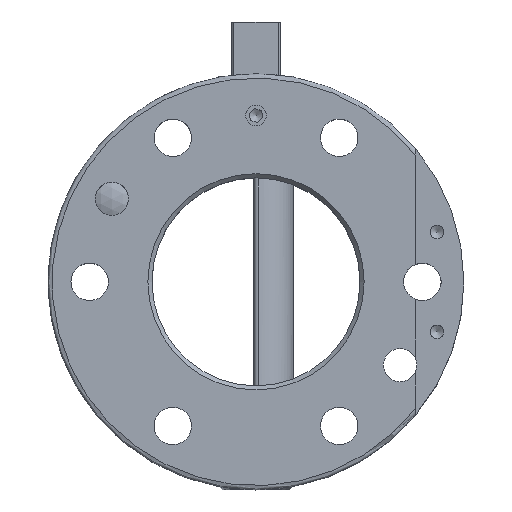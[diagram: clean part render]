
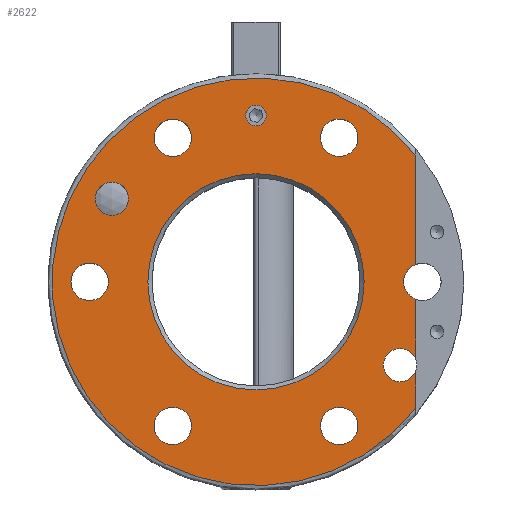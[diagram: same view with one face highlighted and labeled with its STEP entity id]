
A CAD part, top view. The second image highlights one B-rep face of the part: STEP entity #2622.
In plain terms, the highlighted planar face has unit normal (0, 0, 1).
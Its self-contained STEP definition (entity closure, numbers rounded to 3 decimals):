
#482=CARTESIAN_POINT('',(2.459,40.0,0.0));
#483=VERTEX_POINT('',#482);
#484=CARTESIAN_POINT('',(0.0,40.0,0.0));
#485=DIRECTION('',(0.0,0.0,-1.0));
#486=DIRECTION('',(1.0,0.0,0.0));
#487=AXIS2_PLACEMENT_3D('',#484,#485,#486);
#488=CIRCLE('',#487,2.459);
#489=EDGE_CURVE('',#483,#483,#488,.T.);
#2428=CARTESIAN_POINT('',(38.4,30.437,0.0));
#2429=VERTEX_POINT('',#2428);
#2444=CARTESIAN_POINT('',(38.4,-30.437,0.0));
#2445=VERTEX_POINT('',#2444);
#2459=CARTESIAN_POINT('',(0.0,0.0,0.0));
#2460=DIRECTION('',(0.0,0.0,-1.0));
#2461=DIRECTION('',(-1.0,0.0,0.0));
#2462=AXIS2_PLACEMENT_3D('',#2459,#2460,#2461);
#2463=CIRCLE('',#2462,49.0);
#2464=EDGE_CURVE('',#2445,#2429,#2463,.T.);
#2475=CARTESIAN_POINT('',(38.4,4.206,0.0));
#2476=VERTEX_POINT('',#2475);
#2477=CARTESIAN_POINT('',(38.4,4.206,0.0));
#2478=DIRECTION('',(0.0,1.0,0.0));
#2479=VECTOR('',#2478,26.232);
#2480=LINE('',#2477,#2479);
#2481=EDGE_CURVE('',#2476,#2429,#2480,.T.);
#2501=CARTESIAN_POINT('',(0.0,0.0,0.0));
#2502=DIRECTION('',(0.0,0.0,-1.0));
#2503=DIRECTION('',(-1.0,0.0,0.0));
#2504=AXIS2_PLACEMENT_3D('',#2501,#2502,#2503);
#2505=PLANE('',#2504);
#2506=ORIENTED_EDGE('',*,*,#2464,.F.);
#2507=CARTESIAN_POINT('',(38.4,-21.367,0.0));
#2508=VERTEX_POINT('',#2507);
#2509=CARTESIAN_POINT('',(38.4,-30.437,0.0));
#2510=DIRECTION('',(0.0,1.0,0.0));
#2511=VECTOR('',#2510,9.07);
#2512=LINE('',#2509,#2511);
#2513=EDGE_CURVE('',#2445,#2508,#2512,.T.);
#2514=ORIENTED_EDGE('',*,*,#2513,.T.);
#2515=CARTESIAN_POINT('',(38.4,-18.633,0.0));
#2516=VERTEX_POINT('',#2515);
#2517=CARTESIAN_POINT('',(34.641,-20.,0.0));
#2518=DIRECTION('',(0.0,0.0,-1.0));
#2519=DIRECTION('',(1.0,0.0,0.0));
#2520=AXIS2_PLACEMENT_3D('',#2517,#2518,#2519);
#2521=CIRCLE('',#2520,4.0);
#2522=EDGE_CURVE('',#2508,#2516,#2521,.T.);
#2523=ORIENTED_EDGE('',*,*,#2522,.T.);
#2524=CARTESIAN_POINT('',(38.4,-4.206,0.0));
#2525=VERTEX_POINT('',#2524);
#2526=CARTESIAN_POINT('',(38.4,-18.633,0.0));
#2527=DIRECTION('',(0.0,1.0,0.0));
#2528=VECTOR('',#2527,14.427);
#2529=LINE('',#2526,#2528);
#2530=EDGE_CURVE('',#2516,#2525,#2529,.T.);
#2531=ORIENTED_EDGE('',*,*,#2530,.T.);
#2532=CARTESIAN_POINT('',(40.,0.,0.0));
#2533=DIRECTION('',(0.0,0.0,-1.0));
#2534=DIRECTION('',(-1.0,0.0,0.0));
#2535=AXIS2_PLACEMENT_3D('',#2532,#2533,#2534);
#2536=CIRCLE('',#2535,4.5);
#2537=EDGE_CURVE('',#2525,#2476,#2536,.T.);
#2538=ORIENTED_EDGE('',*,*,#2537,.T.);
#2539=ORIENTED_EDGE('',*,*,#2481,.T.);
#2540=EDGE_LOOP('',(#2506,#2514,#2523,#2531,#2538,#2539));
#2541=FACE_OUTER_BOUND('',#2540,.T.);
#2542=CARTESIAN_POINT('',(26.0,0.,0.0));
#2543=VERTEX_POINT('',#2542);
#2544=CARTESIAN_POINT('',(0.0,0.0,0.0));
#2545=DIRECTION('',(0.0,0.0,1.0));
#2546=DIRECTION('',(-1.0,0.0,0.0));
#2547=AXIS2_PLACEMENT_3D('',#2544,#2545,#2546);
#2548=CIRCLE('',#2547,26.0);
#2549=EDGE_CURVE('',#2543,#2543,#2548,.T.);
#2550=ORIENTED_EDGE('',*,*,#2549,.F.);
#2551=EDGE_LOOP('',(#2550));
#2552=FACE_BOUND('',#2551,.T.);
#2553=ORIENTED_EDGE('',*,*,#489,.T.);
#2554=EDGE_LOOP('',(#2553));
#2555=FACE_BOUND('',#2554,.T.);
#2556=CARTESIAN_POINT('',(-30.641,20.,0.0));
#2557=VERTEX_POINT('',#2556);
#2558=CARTESIAN_POINT('',(-34.641,20.,0.0));
#2559=DIRECTION('',(0.0,0.0,-1.0));
#2560=DIRECTION('',(1.0,0.0,0.0));
#2561=AXIS2_PLACEMENT_3D('',#2558,#2559,#2560);
#2562=CIRCLE('',#2561,4.0);
#2563=EDGE_CURVE('',#2557,#2557,#2562,.T.);
#2564=ORIENTED_EDGE('',*,*,#2563,.T.);
#2565=EDGE_LOOP('',(#2564));
#2566=FACE_BOUND('',#2565,.T.);
#2567=CARTESIAN_POINT('',(24.5,-34.641,0.0));
#2568=VERTEX_POINT('',#2567);
#2569=CARTESIAN_POINT('',(20.,-34.641,0.0));
#2570=DIRECTION('',(0.0,0.0,-1.0));
#2571=DIRECTION('',(-1.0,0.0,0.0));
#2572=AXIS2_PLACEMENT_3D('',#2569,#2570,#2571);
#2573=CIRCLE('',#2572,4.5);
#2574=EDGE_CURVE('',#2568,#2568,#2573,.T.);
#2575=ORIENTED_EDGE('',*,*,#2574,.T.);
#2576=EDGE_LOOP('',(#2575));
#2577=FACE_BOUND('',#2576,.T.);
#2578=CARTESIAN_POINT('',(-15.5,-34.641,0.0));
#2579=VERTEX_POINT('',#2578);
#2580=CARTESIAN_POINT('',(-20.,-34.641,0.0));
#2581=DIRECTION('',(0.0,0.0,-1.0));
#2582=DIRECTION('',(-1.0,0.0,0.0));
#2583=AXIS2_PLACEMENT_3D('',#2580,#2581,#2582);
#2584=CIRCLE('',#2583,4.5);
#2585=EDGE_CURVE('',#2579,#2579,#2584,.T.);
#2586=ORIENTED_EDGE('',*,*,#2585,.T.);
#2587=EDGE_LOOP('',(#2586));
#2588=FACE_BOUND('',#2587,.T.);
#2589=CARTESIAN_POINT('',(-35.5,0.,0.0));
#2590=VERTEX_POINT('',#2589);
#2591=CARTESIAN_POINT('',(-40.,0.,0.0));
#2592=DIRECTION('',(0.0,0.0,-1.0));
#2593=DIRECTION('',(-1.0,0.0,0.0));
#2594=AXIS2_PLACEMENT_3D('',#2591,#2592,#2593);
#2595=CIRCLE('',#2594,4.5);
#2596=EDGE_CURVE('',#2590,#2590,#2595,.T.);
#2597=ORIENTED_EDGE('',*,*,#2596,.T.);
#2598=EDGE_LOOP('',(#2597));
#2599=FACE_BOUND('',#2598,.T.);
#2600=CARTESIAN_POINT('',(-15.5,34.641,0.0));
#2601=VERTEX_POINT('',#2600);
#2602=CARTESIAN_POINT('',(-20.,34.641,0.0));
#2603=DIRECTION('',(0.0,0.0,-1.0));
#2604=DIRECTION('',(-1.0,0.0,0.0));
#2605=AXIS2_PLACEMENT_3D('',#2602,#2603,#2604);
#2606=CIRCLE('',#2605,4.5);
#2607=EDGE_CURVE('',#2601,#2601,#2606,.T.);
#2608=ORIENTED_EDGE('',*,*,#2607,.T.);
#2609=EDGE_LOOP('',(#2608));
#2610=FACE_BOUND('',#2609,.T.);
#2611=CARTESIAN_POINT('',(24.5,34.641,0.0));
#2612=VERTEX_POINT('',#2611);
#2613=CARTESIAN_POINT('',(20.,34.641,0.0));
#2614=DIRECTION('',(0.0,0.0,-1.0));
#2615=DIRECTION('',(-1.0,0.0,0.0));
#2616=AXIS2_PLACEMENT_3D('',#2613,#2614,#2615);
#2617=CIRCLE('',#2616,4.5);
#2618=EDGE_CURVE('',#2612,#2612,#2617,.T.);
#2619=ORIENTED_EDGE('',*,*,#2618,.T.);
#2620=EDGE_LOOP('',(#2619));
#2621=FACE_BOUND('',#2620,.T.);
#2622=ADVANCED_FACE('',(#2541,#2552,#2555,#2566,#2577,#2588,#2599,#2610,#2621),#2505,.F.);
